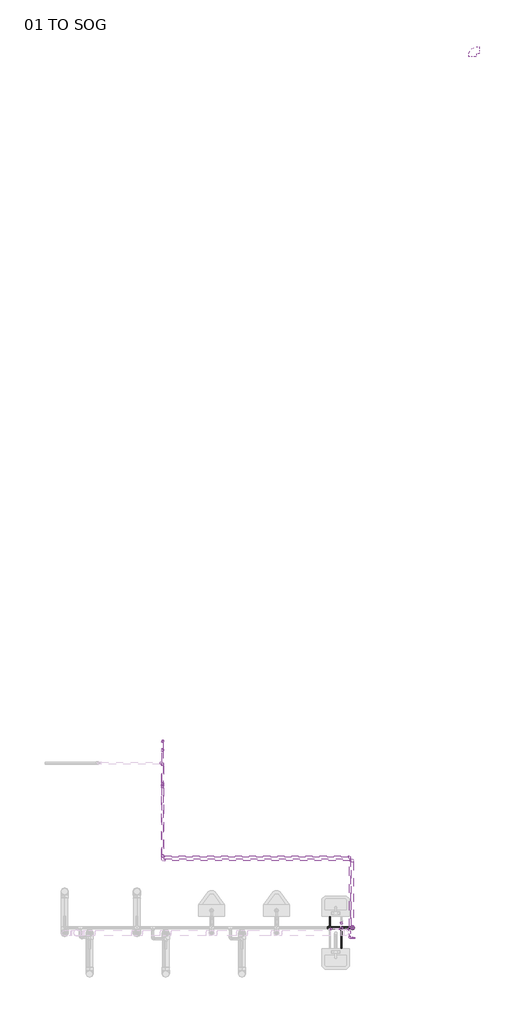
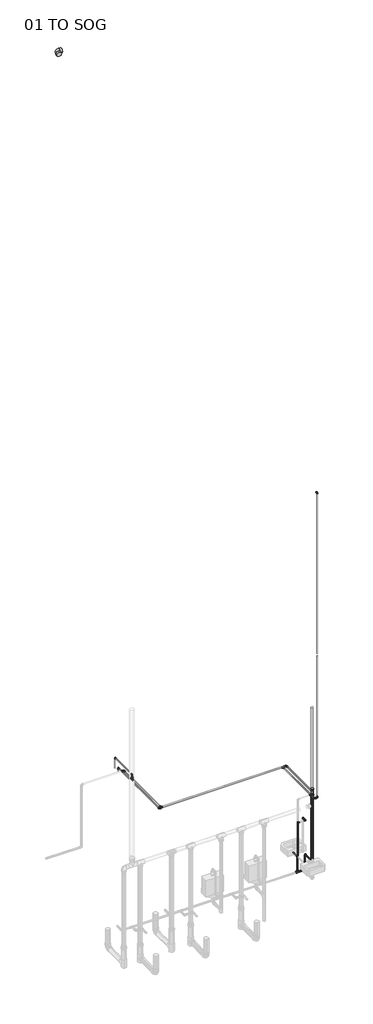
# One storey, part 4 of 4: 29 pipe fittings, 24 pipe segments.
"""IFC4 building model written with IfcOpenShell, lengths in millimetres."""

from ifc_helpers import new_model, si_unit, point, frame, frame_2d, origin, place, context, project, spatial, circle_curve, trimmed, segment, composite_curve, outline, extrude, transform, mapped, element, save
from components import elbow_pvc_sch_40_standard_49eec4e1, elbow_pvc_sch_40_standard_84c736bd, elbow_pvc_sch_40_standard_517a5a8d, reducer_pvc_sch_40_dwv_standard_62d2b996, reducer_pvc_sch_40_dwv_standard_36281592, reducer_pvc_sch_40_dwv_standard_ca3bfa07, reducer_pvc_sch_40_dwv_standard_24e42dc9, tee_pvc_sch_40_standard_2c251a49, tee_pvc_sch_40_standard_72b35c3b

model = new_model("IFC4")

# Units and contexts
model_context = context("Model", 3, world=origin())
ifc_project = project(units=[si_unit("LENGTHUNIT", "METRE", prefix="MILLI")], contexts=[model_context])

# Site, building, storey
site = spatial("IfcSite", under=ifc_project)
building = spatial("IfcBuilding", under=site)
storey = spatial("IfcBuildingStorey", under=building, Name="01 TO SOG", Elevation=0.0)

# Pipe fittings
placement = place(None, origin())
elbow_pvc_sch_40_standard_shape = elbow_pvc_sch_40_standard_49eec4e1(model_context)
element("IfcPipeFitting", 1, ObjectType="Elbow - PVC - Sch 40 : Standard", at=placement, inside=storey, context=model_context, shape_type="MappedRepresentation", body=[
    mapped(elbow_pvc_sch_40_standard_shape, transform((-12527.2862378, -4369.7953325, 1752.1219792), x_axis=(1.0, 0.0, 0.0), y_axis=(0.0, 1.0, 0.0), z_axis=(0.0, 0.0, 1.0))),
])
element("IfcPipeFitting", 2, ObjectType="Elbow - PVC - Sch 40 : Standard", at=placement, inside=storey, context=model_context, shape_type="MappedRepresentation", body=[
    mapped(elbow_pvc_sch_40_standard_shape, transform((-12527.2862378, -4252.3203325, 1752.1219792), x_axis=(0.0, 0.0, 1.0), y_axis=(0.0, -1.0, 0.0), z_axis=(1.0, 0.0, 0.0))),
])
element("IfcPipeFitting", 3, ObjectType="Elbow - PVC - Sch 40 : Standard", at=placement, inside=storey, context=model_context, shape_type="MappedRepresentation", body=[
    mapped(elbow_pvc_sch_40_standard_shape, transform((-12380.7042617, -4529.8127245, 2409.1325453), x_axis=(0.0, -1.0, 0.0), y_axis=(1.0, 0.0, 0.0), z_axis=(0.0, 0.0, 1.0))),
])
element("IfcPipeFitting", 4, ObjectType="Elbow - PVC - Sch 40 : Standard", at=placement, inside=storey, context=model_context, shape_type="MappedRepresentation", body=[
    mapped(elbow_pvc_sch_40_standard_shape, transform((-12730.4862378, -4347.5703325, 786.9219792), x_axis=(0.0, -1.0, 0.0), y_axis=(0.0, 0.0, -1.0), z_axis=(1.0, 0.0, 0.0))),
])
element("IfcPipeFitting", 5, ObjectType="Elbow - PVC - Sch 40 : Standard", at=placement, inside=storey, context=model_context, shape_type="MappedRepresentation", body=[
    mapped(elbow_pvc_sch_40_standard_shape, transform((-12526.7542617, -4347.5703325, 787.4), x_axis=(0.0, 1.0, 0.0), y_axis=(0.0, 0.0, -1.0), z_axis=(-1.0, 0.0, 0.0))),
])
element("IfcPipeFitting", 6, ObjectType="Elbow - PVC - Sch 40 : Standard", at=placement, inside=storey, context=model_context, shape_type="MappedRepresentation", body=[
    mapped(elbow_pvc_sch_40_standard_shape, transform((-12304.7024163, -4529.8127245, 2409.1325453), x_axis=(1.0, 0.0, 0.0), y_axis=(0.0, 0.0, 1.0), z_axis=(0.0, -1.0, 0.0))),
])
element("IfcPipeFitting", 7, ObjectType="Elbow - PVC - Sch 40 : Standard", at=placement, inside=storey, context=model_context, shape_type="MappedRepresentation", body=[
    mapped(elbow_pvc_sch_40_standard_shape, transform((-12304.7024163, -4529.8127245, 10983.131328), x_axis=(0.0, 0.0, 1.0), y_axis=(-0.9389057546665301, 0.3441743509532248, 0.0), z_axis=(-0.3441743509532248, -0.9389057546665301, 0.0))),
])
element("IfcPipeFitting", 8, ObjectType="Elbow - PVC - Sch 40 : Standard", at=placement, inside=storey, context=model_context, shape_type="MappedRepresentation", body=[
    mapped(elbow_pvc_sch_40_standard_shape, transform((-12380.7042617, -3093.4453325, 2409.1325453), x_axis=(0.0, 1.0, 0.0), y_axis=(-1.0, 0.0, 0.0), z_axis=(0.0, 0.0, 1.0))),
])
element("IfcPipeFitting", 9, ObjectType="Elbow - PVC - Sch 40 : Standard", at=placement, inside=storey, context=model_context, shape_type="MappedRepresentation", body=[
    mapped(elbow_pvc_sch_40_standard_shape, transform((-15676.3543453, -3093.5435738, 2409.1012919), x_axis=(0.0, -1.0, 0.0), y_axis=(1.0, 0.0, 0.0), z_axis=(0.0, 0.0, 1.0))),
])
element("IfcPipeFitting", 10, ObjectType="Elbow - PVC - Sch 40 : Standard", at=placement, inside=storey, context=model_context, shape_type="MappedRepresentation", body=[
    mapped(elbow_pvc_sch_40_standard_shape, transform((-15676.3542617, -1205.9078325, 2409.1012919), x_axis=(0.0, 0.0, 1.0), y_axis=(-4.597726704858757e-08, -0.999999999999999, 0.0), z_axis=(0.999999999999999, -4.597726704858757e-08, 0.0))),
])
element("IfcPipeFitting", 11, ObjectType="Elbow - PVC - Sch 40 : Standard", at=placement, inside=storey, context=model_context, shape_type="MappedRepresentation", body=[
    mapped(elbow_pvc_sch_40_standard_shape, transform((-15676.3542617, -1053.5078325, 2603.5), x_axis=(0.0, 0.0, 1.0), y_axis=(0.0, -1.0, 0.0), z_axis=(1.0, 0.0, 0.0))),
])
element("IfcPipeFitting", 12, ObjectType="Elbow - PVC - Sch 40 : Standard", at=placement, inside=storey, context=model_context, shape_type="MappedRepresentation", body=[
    mapped(elbow_pvc_sch_40_standard_shape, transform((-15676.3542617, -1840.9078325, 2603.5), x_axis=(0.0, -1.0, 0.0), y_axis=(0.0, 0.0, -1.0), z_axis=(1.0, 0.0, 0.0))),
])
elbow_pvc_sch_40_standard_2_shape = elbow_pvc_sch_40_standard_84c736bd(model_context)
element("IfcPipeFitting", 13, ObjectType="Elbow - PVC - Sch 40 : Standard", at=placement, inside=storey, context=model_context, shape_type="MappedRepresentation", body=[
    mapped(elbow_pvc_sch_40_standard_2_shape, transform((-10219.1403709, 11085.0064049, 13147.0862816), x_axis=(-0.9999457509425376, 0.0, -0.010416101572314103), y_axis=(0.00010848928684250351, -0.9999457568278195, -0.010414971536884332), z_axis=(-0.010415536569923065, -0.010415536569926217, 0.9998915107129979))),
])
elbow_pvc_sch_40_standard_3_shape = elbow_pvc_sch_40_standard_517a5a8d(model_context)
element("IfcPipeFitting", 14, ObjectType="Elbow - PVC - Sch 40 : Standard", at=placement, inside=storey, context=model_context, shape_type="MappedRepresentation", body=[
    mapped(elbow_pvc_sch_40_standard_3_shape, transform((-12335.1860378, -4347.5703325, 355.6), x_axis=(1.0, 0.0, 0.0), y_axis=(0.0, 0.0, 1.0), z_axis=(0.0, -1.0, 0.0))),
])
element("IfcPipeFitting", 15, ObjectType="Elbow - PVC - Sch 40 : Standard", at=placement, inside=storey, context=model_context, shape_type="MappedRepresentation", body=[
    mapped(elbow_pvc_sch_40_standard_3_shape, transform((-12335.1860378, -3153.7703325, 2475.1150248), x_axis=(0.0, 1.0, 0.0), y_axis=(-1.0, 0.0, 0.0), z_axis=(0.0, 0.0, 1.0))),
])
element("IfcPipeFitting", 16, ObjectType="Elbow - PVC - Sch 40 : Standard", at=placement, inside=storey, context=model_context, shape_type="MappedRepresentation", body=[
    mapped(elbow_pvc_sch_40_standard_3_shape, transform((-15676.3542617, -3153.7703325, 2475.1150248), x_axis=(0.0, -1.0, 0.0), y_axis=(1.0, 0.0, 0.0), z_axis=(0.0, 0.0, 1.0))),
])
element("IfcPipeFitting", 17, ObjectType="Elbow - PVC - Sch 40 : Standard", at=placement, inside=storey, context=model_context, shape_type="MappedRepresentation", body=[
    mapped(elbow_pvc_sch_40_standard_3_shape, transform((-15676.3542617, -1451.9703325, 2475.1150248), x_axis=(0.0, 1.0, 0.0), y_axis=(-1.0, 0.0, 0.0), z_axis=(0.0, 0.0, 1.0))),
])
reducer_pvc_sch_40_dwv_standard_shape = reducer_pvc_sch_40_dwv_standard_62d2b996(model_context)
element("IfcPipeFitting", 18, ObjectType="Reducer - PVC - Sch 40 - DWV : Standard", at=placement, inside=storey, context=model_context, shape_type="MappedRepresentation", body=[
    mapped(reducer_pvc_sch_40_dwv_standard_shape, transform((-12730.4862378, -4347.5703325, 395.3002), x_axis=(0.0, 0.0, 1.0), y_axis=(0.0, 1.0, 0.0), z_axis=(-1.0, 0.0, 0.0))),
])
reducer_pvc_sch_40_dwv_standard_2_shape = reducer_pvc_sch_40_dwv_standard_36281592(model_context)
element("IfcPipeFitting", 19, ObjectType="Reducer - PVC - Sch 40 - DWV : Standard", at=placement, inside=storey, context=model_context, shape_type="MappedRepresentation", body=[
    mapped(reducer_pvc_sch_40_dwv_standard_2_shape, transform((-12526.7542617, -4347.5703325, 395.3002), x_axis=(0.0, 0.0, 1.0), y_axis=(0.0, -1.0, 0.0), z_axis=(1.0, 0.0, 0.0))),
])
element("IfcPipeFitting", 20, ObjectType="Reducer - PVC - Sch 40 - DWV : Standard", at=placement, inside=storey, context=model_context, shape_type="MappedRepresentation", body=[
    mapped(reducer_pvc_sch_40_dwv_standard_2_shape, transform((-15676.3542617, -1840.9078325, 2514.8152248), x_axis=(0.0, 0.0, 1.0), y_axis=(0.0, 1.0, 0.0), z_axis=(-1.0, 0.0, 0.0))),
])
reducer_pvc_sch_40_dwv_standard_3_shape = reducer_pvc_sch_40_dwv_standard_ca3bfa07(model_context)
element("IfcPipeFitting", 21, ObjectType="Reducer - PVC - Sch 40 - DWV : Standard", at=placement, inside=storey, context=model_context, shape_type="MappedRepresentation", body=[
    mapped(reducer_pvc_sch_40_dwv_standard_3_shape, transform((-12335.1860378, -4347.5703325, 398.86255), x_axis=(0.0, 0.0, 1.0), y_axis=(1.0, 0.0, 0.0), z_axis=(0.0, 1.0, 0.0))),
])
element("IfcPipeFitting", 22, ObjectType="Reducer - PVC - Sch 40 - DWV : Standard", at=placement, inside=storey, context=model_context, shape_type="MappedRepresentation", body=[
    mapped(reducer_pvc_sch_40_dwv_standard_3_shape, transform((-12335.1860378, -4347.5703325, 2435.4148248), x_axis=(0.0, 0.0, -1.0), y_axis=(-1.0, 0.0, 0.0), z_axis=(0.0, 1.0, 0.0))),
])
reducer_pvc_sch_40_dwv_standard_4_shape = reducer_pvc_sch_40_dwv_standard_24e42dc9(model_context)
element("IfcPipeFitting", 23, ObjectType="Reducer - PVC - Sch 40 - DWV : Standard", at=placement, inside=storey, context=model_context, shape_type="MappedRepresentation", body=[
    mapped(reducer_pvc_sch_40_dwv_standard_4_shape, transform((-12335.1860378, -4347.5703325, 2514.8152248), x_axis=(0.0, 0.0, 1.0), y_axis=(1.0, 0.0, 0.0), z_axis=(0.0, 1.0, 0.0))),
])
tee_pvc_sch_40_standard_shape = tee_pvc_sch_40_standard_2c251a49(model_context)
element("IfcPipeFitting", 24, ObjectType="Tee - PVC - Sch 40 : Standard", at=placement, inside=storey, context=model_context, shape_type="MappedRepresentation", body=[
    mapped(tee_pvc_sch_40_standard_shape, transform((-12729.9542617, -4369.7953325, 1752.1219792), x_axis=(0.0, 0.0, -1.0), y_axis=(-1.0, 0.0, 0.0), z_axis=(0.0, 1.0, 0.0))),
])
element("IfcPipeFitting", 25, ObjectType="Tee - PVC - Sch 40 : Standard", at=placement, inside=storey, context=model_context, shape_type="MappedRepresentation", body=[
    mapped(tee_pvc_sch_40_standard_shape, transform((-12380.7042617, -4369.7953325, 2409.1325453), x_axis=(0.0, 1.0, 0.0), y_axis=(1.0, 0.0, 0.0), z_axis=(0.0, 0.0, -1.0))),
])
tee_pvc_sch_40_standard_2_shape = tee_pvc_sch_40_standard_72b35c3b(model_context)
element("IfcPipeFitting", 26, ObjectType="Tee - PVC - Sch 40 : Standard", at=placement, inside=storey, context=model_context, shape_type="MappedRepresentation", body=[
    mapped(tee_pvc_sch_40_standard_2_shape, transform((-12730.4862378, -4347.5703325, 355.6), x_axis=(-1.0, 0.0, 0.0), y_axis=(0.0, 0.0, -1.0), z_axis=(0.0, -1.0, 0.0))),
])
element("IfcPipeFitting", 27, ObjectType="Tee - PVC - Sch 40 : Standard", at=placement, inside=storey, context=model_context, shape_type="MappedRepresentation", body=[
    mapped(tee_pvc_sch_40_standard_2_shape, transform((-12526.7542617, -4347.5703325, 355.6), x_axis=(-1.0, 0.0, 0.0), y_axis=(0.0, 0.0, -1.0), z_axis=(0.0, -1.0, 0.0))),
])
element("IfcPipeFitting", 28, ObjectType="Tee - PVC - Sch 40 : Standard", at=placement, inside=storey, context=model_context, shape_type="MappedRepresentation", body=[
    mapped(tee_pvc_sch_40_standard_2_shape, transform((-12335.1860378, -4347.5703325, 2475.1150248), x_axis=(0.0, 0.0, -1.0), y_axis=(0.0, -1.0, 0.0), z_axis=(-1.0, 0.0, 0.0))),
])
element("IfcPipeFitting", 29, ObjectType="Tee - PVC - Sch 40 : Standard", at=placement, inside=storey, context=model_context, shape_type="MappedRepresentation", body=[
    mapped(tee_pvc_sch_40_standard_2_shape, transform((-15676.3542617, -1840.9078325, 2475.1150248), x_axis=(0.0, 1.0, 0.0), y_axis=(0.0, 0.0, -1.0), z_axis=(-1.0, 0.0, 0.0))),
])

# Pipe segments
element("IfcPipeSegment", 30, ObjectType="Standard", at=placement, inside=storey, context=model_context, shape_type="SweptSolid", body=[
    extrude(outline(composite_curve([segment(trimmed(circle_curve(frame_2d((-12729.9542617, -4369.7953325)), 10.715625), [point((-12740.6698867, -4369.7953325))], [point((-12729.9542617, -4359.0797075))], False, "CARTESIAN"), True, "CONTINUOUS"), segment(trimmed(circle_curve(frame_2d((-12729.9542617, -4369.7953325)), 10.715625), [point((-12729.9542617, -4359.0797075))], [point((-12719.2386367, -4369.7953325))], False, "CARTESIAN"), True, "CONTINUOUS"), segment(trimmed(circle_curve(frame_2d((-12729.9542617, -4369.7953325)), 10.715625), [point((-12719.2386367, -4369.7953325))], [point((-12729.9542617, -4380.5109575))], False, "CARTESIAN"), True, "CONTINUOUS"), segment(trimmed(circle_curve(frame_2d((-12729.9542617, -4369.7953325)), 10.715625), [point((-12729.9542617, -4380.5109575))], [point((-12740.6698867, -4369.7953325))], False, "CARTESIAN"), True, "CONTINUOUS")], self_intersect=False)), frame((0.0, 0.0, 821.13755), z_axis=(0.0, 0.0, 1.0), x_axis=(1.0, 0.0, 0.0)), (0.0, 0.0, 1.0), 899.2344292),
])
element("IfcPipeSegment", 31, ObjectType="Standard", at=placement, inside=storey, context=model_context, shape_type="SweptSolid", body=[
    extrude(outline(composite_curve([segment(trimmed(circle_curve(frame_2d((2409.1325453, -12380.7042617)), 10.715625), [point((2409.1325453, -12391.4198867))], [point((2398.4169203, -12380.7042617))], False, "CARTESIAN"), True, "CONTINUOUS"), segment(trimmed(circle_curve(frame_2d((2409.1325453, -12380.7042617)), 10.715625), [point((2398.4169203, -12380.7042617))], [point((2409.1325453, -12369.9886367))], False, "CARTESIAN"), True, "CONTINUOUS"), segment(trimmed(circle_curve(frame_2d((2409.1325453, -12380.7042617)), 10.715625), [point((2409.1325453, -12369.9886367))], [point((2419.8481703, -12380.7042617))], False, "CARTESIAN"), True, "CONTINUOUS"), segment(trimmed(circle_curve(frame_2d((2409.1325453, -12380.7042617)), 10.715625), [point((2419.8481703, -12380.7042617))], [point((2409.1325453, -12391.4198867))], False, "CARTESIAN"), True, "CONTINUOUS")], self_intersect=False)), frame((0.0, -4496.0751745, 0.0), z_axis=(0.0, 1.0, 0.0), x_axis=(0.0, 0.0, 1.0)), (0.0, 0.0, 1.0), 94.5298419),
])
element("IfcPipeSegment", 32, ObjectType="Standard", at=placement, inside=storey, context=model_context, shape_type="SweptSolid", body=[
    extrude(outline(composite_curve([segment(trimmed(circle_curve(frame_2d((2409.1325453, -12380.7042617)), 10.715625), [point((2409.1325453, -12369.9886367))], [point((2419.8481703, -12380.7042617))], False, "CARTESIAN"), True, "CONTINUOUS"), segment(trimmed(circle_curve(frame_2d((2409.1325453, -12380.7042617)), 10.715625), [point((2419.8481703, -12380.7042617))], [point((2409.1325453, -12391.4198867))], False, "CARTESIAN"), True, "CONTINUOUS"), segment(trimmed(circle_curve(frame_2d((2409.1325453, -12380.7042617)), 10.715625), [point((2409.1325453, -12391.4198867))], [point((2398.4169203, -12380.7042617))], False, "CARTESIAN"), True, "CONTINUOUS"), segment(trimmed(circle_curve(frame_2d((2409.1325453, -12380.7042617)), 10.715625), [point((2398.4169203, -12380.7042617))], [point((2409.1325453, -12369.9886367))], False, "CARTESIAN"), True, "CONTINUOUS")], self_intersect=False)), frame((0.0, -4338.0453325, 0.0), z_axis=(0.0, 1.0, 0.0), x_axis=(0.0, 0.0, 1.0)), (0.0, 0.0, 1.0), 1210.86245),
])
element("IfcPipeSegment", 33, ObjectType="Standard", at=placement, inside=storey, context=model_context, shape_type="SweptSolid", body=[
    extrude(outline(composite_curve([segment(trimmed(circle_curve(frame_2d((-4529.8127245, 2409.1325453)), 10.715625), [point((-4540.5283495, 2409.1325453))], [point((-4529.8127245, 2419.8481703))], False, "CARTESIAN"), True, "CONTINUOUS"), segment(trimmed(circle_curve(frame_2d((-4529.8127245, 2409.1325453)), 10.715625), [point((-4529.8127245, 2419.8481703))], [point((-4519.0970995, 2409.1325453))], False, "CARTESIAN"), True, "CONTINUOUS"), segment(trimmed(circle_curve(frame_2d((-4529.8127245, 2409.1325453)), 10.715625), [point((-4519.0970995, 2409.1325453))], [point((-4529.8127245, 2398.4169203))], False, "CARTESIAN"), True, "CONTINUOUS"), segment(trimmed(circle_curve(frame_2d((-4529.8127245, 2409.1325453)), 10.715625), [point((-4529.8127245, 2398.4169203))], [point((-4540.5283495, 2409.1325453))], False, "CARTESIAN"), True, "CONTINUOUS")], self_intersect=False)), frame((-12346.9667117, 0.0, 0.0), z_axis=(1.0, 0.0, 0.0), x_axis=(0.0, 1.0, 0.0)), (0.0, 0.0, 1.0), 8.5267454),
])
element("IfcPipeSegment", 34, ObjectType="Standard", at=placement, inside=storey, context=model_context, shape_type="SweptSolid", body=[
    extrude(outline(composite_curve([segment(trimmed(circle_curve(frame_2d((-12304.7024163, -4529.8127245)), 10.715625), [point((-12315.4180413, -4529.8127245))], [point((-12304.7024163, -4519.0970995))], False, "CARTESIAN"), True, "CONTINUOUS"), segment(trimmed(circle_curve(frame_2d((-12304.7024163, -4529.8127245)), 10.715625), [point((-12304.7024163, -4519.0970995))], [point((-12293.9867913, -4529.8127245))], False, "CARTESIAN"), True, "CONTINUOUS"), segment(trimmed(circle_curve(frame_2d((-12304.7024163, -4529.8127245)), 10.715625), [point((-12293.9867913, -4529.8127245))], [point((-12304.7024163, -4540.5283495))], False, "CARTESIAN"), True, "CONTINUOUS"), segment(trimmed(circle_curve(frame_2d((-12304.7024163, -4529.8127245)), 10.715625), [point((-12304.7024163, -4540.5283495))], [point((-12315.4180413, -4529.8127245))], False, "CARTESIAN"), True, "CONTINUOUS")], self_intersect=False)), frame((0.0, 0.0, 6446.2352132), z_axis=(0.0, 0.0, 1.0), x_axis=(1.0, 0.0, 0.0)), (0.0, 0.0, 1.0), 4503.1585647),
])
element("IfcPipeSegment", 35, ObjectType="Standard", at=placement, inside=storey, context=model_context, shape_type="SweptSolid", body=[
    extrude(outline(composite_curve([segment(trimmed(circle_curve(frame_2d((787.4, -12526.7542617)), 10.715625), [point((787.4, -12516.0386367))], [point((798.115625, -12526.7542617))], False, "CARTESIAN"), True, "CONTINUOUS"), segment(trimmed(circle_curve(frame_2d((787.4, -12526.7542617)), 10.715625), [point((798.115625, -12526.7542617))], [point((787.4, -12537.4698867))], False, "CARTESIAN"), True, "CONTINUOUS"), segment(trimmed(circle_curve(frame_2d((787.4, -12526.7542617)), 10.715625), [point((787.4, -12537.4698867))], [point((776.684375, -12526.7542617))], False, "CARTESIAN"), True, "CONTINUOUS"), segment(trimmed(circle_curve(frame_2d((787.4, -12526.7542617)), 10.715625), [point((776.684375, -12526.7542617))], [point((787.4, -12516.0386367))], False, "CARTESIAN"), True, "CONTINUOUS")], self_intersect=False)), frame((0.0, -4719.0453325, 0.0), z_axis=(0.0, 1.0, 0.0), x_axis=(0.0, 0.0, 1.0)), (0.0, 0.0, 1.0), 337.73745),
])
element("IfcPipeSegment", 36, ObjectType="Standard", at=placement, inside=storey, context=model_context, shape_type="SweptSolid", body=[
    extrude(outline(composite_curve([segment(trimmed(circle_curve(frame_2d((786.9219792, -12730.4862378)), 10.715625), [point((786.9219792, -12741.2018628))], [point((776.2063542, -12730.4862378))], False, "CARTESIAN"), True, "CONTINUOUS"), segment(trimmed(circle_curve(frame_2d((786.9219792, -12730.4862378)), 10.715625), [point((776.2063542, -12730.4862378))], [point((786.9219792, -12719.7706128))], False, "CARTESIAN"), True, "CONTINUOUS"), segment(trimmed(circle_curve(frame_2d((786.9219792, -12730.4862378)), 10.715625), [point((786.9219792, -12719.7706128))], [point((797.6376042, -12730.4862378))], False, "CARTESIAN"), True, "CONTINUOUS"), segment(trimmed(circle_curve(frame_2d((786.9219792, -12730.4862378)), 10.715625), [point((797.6376042, -12730.4862378))], [point((786.9219792, -12741.2018628))], False, "CARTESIAN"), True, "CONTINUOUS")], self_intersect=False)), frame((0.0, -4313.8327825, 0.0), z_axis=(0.0, 1.0, 0.0), x_axis=(0.0, 0.0, 1.0)), (0.0, 0.0, 1.0), 169.46245),
])
element("IfcPipeSegment", 37, ObjectType="Standard", at=placement, inside=storey, context=model_context, shape_type="SweptSolid", body=[
    extrude(outline(composite_curve([segment(trimmed(circle_curve(frame_2d((-12730.4862378, -4347.5703325)), 10.715625), [point((-12719.7706128, -4347.5703325))], [point((-12730.4862378, -4358.2859575))], False, "CARTESIAN"), True, "CONTINUOUS"), segment(trimmed(circle_curve(frame_2d((-12730.4862378, -4347.5703325)), 10.715625), [point((-12730.4862378, -4358.2859575))], [point((-12741.2018628, -4347.5703325))], False, "CARTESIAN"), True, "CONTINUOUS"), segment(trimmed(circle_curve(frame_2d((-12730.4862378, -4347.5703325)), 10.715625), [point((-12741.2018628, -4347.5703325))], [point((-12730.4862378, -4336.8547075))], False, "CARTESIAN"), True, "CONTINUOUS"), segment(trimmed(circle_curve(frame_2d((-12730.4862378, -4347.5703325)), 10.715625), [point((-12730.4862378, -4336.8547075))], [point((-12719.7706128, -4347.5703325))], False, "CARTESIAN"), True, "CONTINUOUS")], self_intersect=False)), frame((0.0, 0.0, 421.5772937), z_axis=(0.0, 0.0, 1.0), x_axis=(1.0, 0.0, 0.0)), (0.0, 0.0, 1.0), 331.6071354),
])
element("IfcPipeSegment", 38, ObjectType="Standard", at=placement, inside=storey, context=model_context, shape_type="SweptSolid", body=[
    extrude(outline(composite_curve([segment(trimmed(circle_curve(frame_2d((-12526.7542617, -4347.5703325)), 10.715625), [point((-12516.0386367, -4347.5703325))], [point((-12526.7542617, -4358.2859575))], False, "CARTESIAN"), True, "CONTINUOUS"), segment(trimmed(circle_curve(frame_2d((-12526.7542617, -4347.5703325)), 10.715625), [point((-12526.7542617, -4358.2859575))], [point((-12537.4698867, -4347.5703325))], False, "CARTESIAN"), True, "CONTINUOUS"), segment(trimmed(circle_curve(frame_2d((-12526.7542617, -4347.5703325)), 10.715625), [point((-12537.4698867, -4347.5703325))], [point((-12526.7542617, -4336.8547075))], False, "CARTESIAN"), True, "CONTINUOUS"), segment(trimmed(circle_curve(frame_2d((-12526.7542617, -4347.5703325)), 10.715625), [point((-12526.7542617, -4336.8547075))], [point((-12516.0386367, -4347.5703325))], False, "CARTESIAN"), True, "CONTINUOUS")], self_intersect=False)), frame((0.0, 0.0, 421.5772937), z_axis=(0.0, 0.0, 1.0), x_axis=(1.0, 0.0, 0.0)), (0.0, 0.0, 1.0), 332.0851563),
])
element("IfcPipeSegment", 39, ObjectType="Standard", at=placement, inside=storey, context=model_context, shape_type="SweptSolid", body=[
    extrude(outline(composite_curve([segment(trimmed(circle_curve(frame_2d((-4347.5703325, 355.6)), 16.66875), [point((-4364.2390825, 355.6))], [point((-4347.5703325, 372.26875))], False, "CARTESIAN"), True, "CONTINUOUS"), segment(trimmed(circle_curve(frame_2d((-4347.5703325, 355.6)), 16.66875), [point((-4347.5703325, 372.26875))], [point((-4330.9015825, 355.6))], False, "CARTESIAN"), True, "CONTINUOUS"), segment(trimmed(circle_curve(frame_2d((-4347.5703325, 355.6)), 16.66875), [point((-4330.9015825, 355.6))], [point((-4347.5703325, 338.93125))], False, "CARTESIAN"), True, "CONTINUOUS"), segment(trimmed(circle_curve(frame_2d((-4347.5703325, 355.6)), 16.66875), [point((-4347.5703325, 338.93125))], [point((-4364.2390825, 355.6))], False, "CARTESIAN"), True, "CONTINUOUS")], self_intersect=False)), frame((-12487.0540617, 0.0, 0.0), z_axis=(1.0, 0.0, 0.0), x_axis=(0.0, 1.0, 0.0)), (0.0, 0.0, 1.0), 108.6054738),
])
element("IfcPipeSegment", 40, ObjectType="Standard", at=placement, inside=storey, context=model_context, shape_type="SweptSolid", body=[
    extrude(outline(composite_curve([segment(trimmed(circle_curve(frame_2d((0.0, 16.66875)), 16.66875), [point((-16.66875, 16.66875))], [point((0.0, 33.3375))], False, "CARTESIAN"), True, "CONTINUOUS"), segment(trimmed(circle_curve(frame_2d((0.0, 16.66875)), 16.66875), [point((0.0, 33.3375))], [point((16.66875, 16.66875))], False, "CARTESIAN"), True, "CONTINUOUS"), segment(trimmed(circle_curve(frame_2d((0.0, 16.66875)), 16.66875), [point((16.66875, 16.66875))], [point((0.0, 0.0))], False, "CARTESIAN"), True, "CONTINUOUS"), segment(trimmed(circle_curve(frame_2d((0.0, 16.66875)), 16.66875), [point((0.0, 0.0))], [point((-16.66875, 16.66875))], False, "CARTESIAN"), True, "CONTINUOUS")], self_intersect=False)), frame((-12690.7860378, -4347.5703325, 338.93125), z_axis=(1.0, 2.0250467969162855e-12, 0.0), x_axis=(-2.0250467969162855e-12, 1.0, 0.0)), (0.0, 0.0, 1.0), 124.3315762),
])
element("IfcPipeSegment", 41, ObjectType="Standard", at=placement, inside=storey, context=model_context, shape_type="SweptSolid", body=[
    extrude(outline(composite_curve([segment(trimmed(circle_curve(frame_2d((2475.1150248, -12335.1860378)), 16.66875), [point((2475.1150248, -12318.5172878))], [point((2491.7837748, -12335.1860378))], False, "CARTESIAN"), True, "CONTINUOUS"), segment(trimmed(circle_curve(frame_2d((2475.1150248, -12335.1860378)), 16.66875), [point((2491.7837748, -12335.1860378))], [point((2475.1150248, -12351.8547878))], False, "CARTESIAN"), True, "CONTINUOUS"), segment(trimmed(circle_curve(frame_2d((2475.1150248, -12335.1860378)), 16.66875), [point((2475.1150248, -12351.8547878))], [point((2458.4462748, -12335.1860378))], False, "CARTESIAN"), True, "CONTINUOUS"), segment(trimmed(circle_curve(frame_2d((2475.1150248, -12335.1860378)), 16.66875), [point((2458.4462748, -12335.1860378))], [point((2475.1150248, -12318.5172878))], False, "CARTESIAN"), True, "CONTINUOUS")], self_intersect=False)), frame((0.0, -4307.8701325, 0.0), z_axis=(0.0, 1.0, 0.0), x_axis=(0.0, 0.0, 1.0)), (0.0, 0.0, 1.0), 1110.83725),
])
element("IfcPipeSegment", 42, ObjectType="Standard", at=placement, inside=storey, context=model_context, shape_type="SweptSolid", body=[
    extrude(outline(composite_curve([segment(trimmed(circle_curve(frame_2d((-12335.1860378, -4347.5703325)), 30.1625), [point((-12365.3485378, -4347.5703325))], [point((-12335.1860378, -4317.4078325))], False, "CARTESIAN"), True, "CONTINUOUS"), segment(trimmed(circle_curve(frame_2d((-12335.1860378, -4347.5703325)), 30.1625), [point((-12335.1860378, -4317.4078325))], [point((-12305.0235378, -4347.5703325))], False, "CARTESIAN"), True, "CONTINUOUS"), segment(trimmed(circle_curve(frame_2d((-12335.1860378, -4347.5703325)), 30.1625), [point((-12305.0235378, -4347.5703325))], [point((-12335.1860378, -4377.7328325))], False, "CARTESIAN"), True, "CONTINUOUS"), segment(trimmed(circle_curve(frame_2d((-12335.1860378, -4347.5703325)), 30.1625), [point((-12335.1860378, -4377.7328325))], [point((-12365.3485378, -4347.5703325))], False, "CARTESIAN"), True, "CONTINUOUS")], self_intersect=False)), frame((0.0, 0.0, 2566.8733186), z_axis=(0.0, 0.0, 1.0), x_axis=(1.0, 0.0, 0.0)), (0.0, 0.0, 1.0), 2268.9683877),
])
element("IfcPipeSegment", 43, ObjectType="Standard", at=placement, inside=storey, context=model_context, shape_type="SweptSolid", body=[
    extrude(outline(composite_curve([segment(trimmed(circle_curve(frame_2d((-12304.7024163, -4529.8127245)), 10.715625), [point((-12315.4180413, -4529.8127245))], [point((-12304.7024163, -4519.0970995))], False, "CARTESIAN"), True, "CONTINUOUS"), segment(trimmed(circle_curve(frame_2d((-12304.7024163, -4529.8127245)), 10.715625), [point((-12304.7024163, -4519.0970995))], [point((-12293.9867913, -4529.8127245))], False, "CARTESIAN"), True, "CONTINUOUS"), segment(trimmed(circle_curve(frame_2d((-12304.7024163, -4529.8127245)), 10.715625), [point((-12293.9867913, -4529.8127245))], [point((-12304.7024163, -4540.5283495))], False, "CARTESIAN"), True, "CONTINUOUS"), segment(trimmed(circle_curve(frame_2d((-12304.7024163, -4529.8127245)), 10.715625), [point((-12304.7024163, -4540.5283495))], [point((-12315.4180413, -4529.8127245))], False, "CARTESIAN"), True, "CONTINUOUS")], self_intersect=False)), frame((0.0, 0.0, 2442.8700953), z_axis=(0.0, 0.0, 1.0), x_axis=(1.0, 0.0, 0.0)), (0.0, 0.0, 1.0), 3939.8651179),
])
element("IfcPipeSegment", 44, ObjectType="Standard", at=placement, inside=storey, context=model_context, shape_type="SweptSolid", body=[
    extrude(outline(composite_curve([segment(trimmed(circle_curve(frame_2d((-12335.1860378, -4347.5703325)), 30.1625), [point((-12365.3485378, -4347.5703325))], [point((-12335.1860378, -4317.4078325))], False, "CARTESIAN"), True, "CONTINUOUS"), segment(trimmed(circle_curve(frame_2d((-12335.1860378, -4347.5703325)), 30.1625), [point((-12335.1860378, -4317.4078325))], [point((-12305.0235378, -4347.5703325))], False, "CARTESIAN"), True, "CONTINUOUS"), segment(trimmed(circle_curve(frame_2d((-12335.1860378, -4347.5703325)), 30.1625), [point((-12305.0235378, -4347.5703325))], [point((-12335.1860378, -4377.7328325))], False, "CARTESIAN"), True, "CONTINUOUS"), segment(trimmed(circle_curve(frame_2d((-12335.1860378, -4347.5703325)), 30.1625), [point((-12335.1860378, -4377.7328325))], [point((-12365.3485378, -4347.5703325))], False, "CARTESIAN"), True, "CONTINUOUS")], self_intersect=False)), frame((0.0, 0.0, 450.9206438), z_axis=(0.0, 0.0, 1.0), x_axis=(1.0, 0.0, 0.0)), (0.0, 0.0, 1.0), 1932.4360873),
])
element("IfcPipeSegment", 45, ObjectType="Standard", at=placement, inside=storey, context=model_context, shape_type="SweptSolid", body=[
    extrude(outline(composite_curve([segment(trimmed(circle_curve(frame_2d((-3153.7703325, 2475.1150248)), 16.66875), [point((-3137.1015825, 2475.1150248))], [point((-3153.7703325, 2458.4462748))], False, "CARTESIAN"), True, "CONTINUOUS"), segment(trimmed(circle_curve(frame_2d((-3153.7703325, 2475.1150248)), 16.66875), [point((-3153.7703325, 2458.4462748))], [point((-3170.4390825, 2475.1150248))], False, "CARTESIAN"), True, "CONTINUOUS"), segment(trimmed(circle_curve(frame_2d((-3153.7703325, 2475.1150248)), 16.66875), [point((-3170.4390825, 2475.1150248))], [point((-3153.7703325, 2491.7837748))], False, "CARTESIAN"), True, "CONTINUOUS"), segment(trimmed(circle_curve(frame_2d((-3153.7703325, 2475.1150248)), 16.66875), [point((-3153.7703325, 2491.7837748))], [point((-3137.1015825, 2475.1150248))], False, "CARTESIAN"), True, "CONTINUOUS")], self_intersect=False)), frame((-15633.0917117, 0.0, 0.0), z_axis=(1.0, 0.0, 0.0), x_axis=(0.0, 1.0, 0.0)), (0.0, 0.0, 1.0), 3254.6431238),
])
element("IfcPipeSegment", 46, ObjectType="Standard", at=placement, inside=storey, context=model_context, shape_type="SweptSolid", body=[
    extrude(outline(composite_curve([segment(trimmed(circle_curve(frame_2d((2475.1150248, -15676.3542617)), 16.66875), [point((2475.1150248, -15659.6855117))], [point((2491.7837748, -15676.3542617))], False, "CARTESIAN"), True, "CONTINUOUS"), segment(trimmed(circle_curve(frame_2d((2475.1150248, -15676.3542617)), 16.66875), [point((2491.7837748, -15676.3542617))], [point((2475.1150248, -15693.0230117))], False, "CARTESIAN"), True, "CONTINUOUS"), segment(trimmed(circle_curve(frame_2d((2475.1150248, -15676.3542617)), 16.66875), [point((2475.1150248, -15693.0230117))], [point((2458.4462748, -15676.3542617))], False, "CARTESIAN"), True, "CONTINUOUS"), segment(trimmed(circle_curve(frame_2d((2475.1150248, -15676.3542617)), 16.66875), [point((2458.4462748, -15676.3542617))], [point((2475.1150248, -15659.6855117))], False, "CARTESIAN"), True, "CONTINUOUS")], self_intersect=False)), frame((0.0, -1801.2076325, 0.0), z_axis=(0.0, 1.0, 0.0), x_axis=(0.0, 0.0, 1.0)), (0.0, 0.0, 1.0), 305.97475),
])
element("IfcPipeSegment", 47, ObjectType="Standard", at=placement, inside=storey, context=model_context, shape_type="SweptSolid", body=[
    extrude(outline(composite_curve([segment(trimmed(circle_curve(frame_2d((0.0, -10.715625)), 10.715625), [point((-10.715625, -10.715625))], [point((0.0, 0.0))], False, "CARTESIAN"), True, "CONTINUOUS"), segment(trimmed(circle_curve(frame_2d((0.0, -10.715625)), 10.715625), [point((0.0, 0.0))], [point((10.715625, -10.715625))], False, "CARTESIAN"), True, "CONTINUOUS"), segment(trimmed(circle_curve(frame_2d((0.0, -10.715625)), 10.715625), [point((10.715625, -10.715625))], [point((0.0, -21.43125))], False, "CARTESIAN"), True, "CONTINUOUS"), segment(trimmed(circle_curve(frame_2d((0.0, -10.715625)), 10.715625), [point((0.0, -21.43125))], [point((-10.715625, -10.715625))], False, "CARTESIAN"), True, "CONTINUOUS")], self_intersect=False)), frame((-15642.6167953, -3093.5435738, 2398.3864482), z_axis=(0.9999999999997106, 7.608110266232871e-07, 0.0), x_axis=(7.608110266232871e-07, -0.9999999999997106, 0.0)), (0.0, 0.0, 1.0), 3228.1749837),
])
element("IfcPipeSegment", 48, ObjectType="Standard", at=placement, inside=storey, context=model_context, shape_type="SweptSolid", body=[
    extrude(outline(composite_curve([segment(trimmed(circle_curve(frame_2d((-15676.3542617, -1205.9078325)), 10.715625), [point((-15687.0698867, -1205.9078325))], [point((-15676.3542617, -1195.1922075))], False, "CARTESIAN"), True, "CONTINUOUS"), segment(trimmed(circle_curve(frame_2d((-15676.3542617, -1205.9078325)), 10.715625), [point((-15676.3542617, -1195.1922075))], [point((-15665.6386367, -1205.9078325))], False, "CARTESIAN"), True, "CONTINUOUS"), segment(trimmed(circle_curve(frame_2d((-15676.3542617, -1205.9078325)), 10.715625), [point((-15665.6386367, -1205.9078325))], [point((-15676.3542617, -1216.6234575))], False, "CARTESIAN"), True, "CONTINUOUS"), segment(trimmed(circle_curve(frame_2d((-15676.3542617, -1205.9078325)), 10.715625), [point((-15676.3542617, -1216.6234575))], [point((-15687.0698867, -1205.9078325))], False, "CARTESIAN"), True, "CONTINUOUS")], self_intersect=False)), frame((0.0, 0.0, 2311.4), z_axis=(0.0, 0.0, 1.0), x_axis=(1.0, 0.0, 0.0)), (0.0, 0.0, 1.0), 63.9637419),
])
element("IfcPipeSegment", 49, ObjectType="Standard", at=placement, inside=storey, context=model_context, shape_type="SweptSolid", body=[
    extrude(outline(composite_curve([segment(trimmed(circle_curve(frame_2d((0.0, 10.715625)), 10.715625), [point((0.0, 21.43125))], [point((10.715625, 10.715625))], False, "CARTESIAN"), True, "CONTINUOUS"), segment(trimmed(circle_curve(frame_2d((0.0, 10.715625)), 10.715625), [point((10.715625, 10.715625))], [point((0.0, 0.0))], False, "CARTESIAN"), True, "CONTINUOUS"), segment(trimmed(circle_curve(frame_2d((0.0, 10.715625)), 10.715625), [point((0.0, 0.0))], [point((-10.715625, 10.715625))], False, "CARTESIAN"), True, "CONTINUOUS"), segment(trimmed(circle_curve(frame_2d((0.0, 10.715625)), 10.715625), [point((-10.715625, 10.715625))], [point((0.0, 21.43125))], False, "CARTESIAN"), True, "CONTINUOUS")], self_intersect=False)), frame((-15687.0699703, -3059.8060233, 2409.1012919), z_axis=(4.597725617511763e-08, 0.999999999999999, 0.0), x_axis=(0.0, 0.0, 1.0)), (0.0, 0.0, 1.0), 1820.1606412),
])
element("IfcPipeSegment", 50, ObjectType="Standard", at=placement, inside=storey, context=model_context, shape_type="SweptSolid", body=[
    extrude(outline(composite_curve([segment(trimmed(circle_curve(frame_2d((-15676.3542617, -1053.5078325)), 10.715625), [point((-15687.0698867, -1053.5078325))], [point((-15676.3542617, -1042.7922075))], False, "CARTESIAN"), True, "CONTINUOUS"), segment(trimmed(circle_curve(frame_2d((-15676.3542617, -1053.5078325)), 10.715625), [point((-15676.3542617, -1042.7922075))], [point((-15665.6386367, -1053.5078325))], False, "CARTESIAN"), True, "CONTINUOUS"), segment(trimmed(circle_curve(frame_2d((-15676.3542617, -1053.5078325)), 10.715625), [point((-15665.6386367, -1053.5078325))], [point((-15676.3542617, -1064.2234575))], False, "CARTESIAN"), True, "CONTINUOUS"), segment(trimmed(circle_curve(frame_2d((-15676.3542617, -1053.5078325)), 10.715625), [point((-15676.3542617, -1064.2234575))], [point((-15687.0698867, -1053.5078325))], False, "CARTESIAN"), True, "CONTINUOUS")], self_intersect=False)), frame((0.0, 0.0, 2311.4), z_axis=(0.0, 0.0, 1.0), x_axis=(1.0, 0.0, 0.0)), (0.0, 0.0, 1.0), 258.36245),
])
element("IfcPipeSegment", 51, ObjectType="Standard", at=placement, inside=storey, context=model_context, shape_type="SweptSolid", body=[
    extrude(outline(composite_curve([segment(trimmed(circle_curve(frame_2d((2603.5, -15676.3542617)), 10.715625), [point((2603.5, -15687.0698867))], [point((2592.784375, -15676.3542617))], False, "CARTESIAN"), True, "CONTINUOUS"), segment(trimmed(circle_curve(frame_2d((2603.5, -15676.3542617)), 10.715625), [point((2592.784375, -15676.3542617))], [point((2603.5, -15665.6386367))], False, "CARTESIAN"), True, "CONTINUOUS"), segment(trimmed(circle_curve(frame_2d((2603.5, -15676.3542617)), 10.715625), [point((2603.5, -15665.6386367))], [point((2614.215625, -15676.3542617))], False, "CARTESIAN"), True, "CONTINUOUS"), segment(trimmed(circle_curve(frame_2d((2603.5, -15676.3542617)), 10.715625), [point((2614.215625, -15676.3542617))], [point((2603.5, -15687.0698867))], False, "CARTESIAN"), True, "CONTINUOUS")], self_intersect=False)), frame((0.0, -1807.1702825, 0.0), z_axis=(0.0, 1.0, 0.0), x_axis=(0.0, 0.0, 1.0)), (0.0, 0.0, 1.0), 719.9249),
])
element("IfcPipeSegment", 52, ObjectType="Standard", at=placement, inside=storey, context=model_context, shape_type="SweptSolid", body=[
    extrude(outline(composite_curve([segment(trimmed(circle_curve(frame_2d((-15676.3542617, -1840.9078325)), 10.715625), [point((-15665.6386367, -1840.9078325))], [point((-15676.3542617, -1851.6234575))], False, "CARTESIAN"), True, "CONTINUOUS"), segment(trimmed(circle_curve(frame_2d((-15676.3542617, -1840.9078325)), 10.715625), [point((-15676.3542617, -1851.6234575))], [point((-15687.0698867, -1840.9078325))], False, "CARTESIAN"), True, "CONTINUOUS"), segment(trimmed(circle_curve(frame_2d((-15676.3542617, -1840.9078325)), 10.715625), [point((-15687.0698867, -1840.9078325))], [point((-15676.3542617, -1830.1922075))], False, "CARTESIAN"), True, "CONTINUOUS"), segment(trimmed(circle_curve(frame_2d((-15676.3542617, -1840.9078325)), 10.715625), [point((-15676.3542617, -1830.1922075))], [point((-15665.6386367, -1840.9078325))], False, "CARTESIAN"), True, "CONTINUOUS")], self_intersect=False)), frame((0.0, 0.0, 2541.0923186), z_axis=(0.0, 0.0, 1.0), x_axis=(1.0, 0.0, 0.0)), (0.0, 0.0, 1.0), 28.6701314),
])
element("IfcPipeSegment", 53, ObjectType="Standard", at=placement, inside=storey, context=model_context, shape_type="SweptSolid", body=[
    extrude(outline(composite_curve([segment(trimmed(circle_curve(frame_2d((2475.1150248, -15676.3542617)), 16.66875), [point((2475.1150248, -15659.6855117))], [point((2491.7837748, -15676.3542617))], False, "CARTESIAN"), True, "CONTINUOUS"), segment(trimmed(circle_curve(frame_2d((2475.1150248, -15676.3542617)), 16.66875), [point((2491.7837748, -15676.3542617))], [point((2475.1150248, -15693.0230117))], False, "CARTESIAN"), True, "CONTINUOUS"), segment(trimmed(circle_curve(frame_2d((2475.1150248, -15676.3542617)), 16.66875), [point((2475.1150248, -15693.0230117))], [point((2458.4462748, -15676.3542617))], False, "CARTESIAN"), True, "CONTINUOUS"), segment(trimmed(circle_curve(frame_2d((2475.1150248, -15676.3542617)), 16.66875), [point((2458.4462748, -15676.3542617))], [point((2475.1150248, -15659.6855117))], False, "CARTESIAN"), True, "CONTINUOUS")], self_intersect=False)), frame((0.0, -3110.5077825, 0.0), z_axis=(0.0, 1.0, 0.0), x_axis=(0.0, 0.0, 1.0)), (0.0, 0.0, 1.0), 1229.89975),
])

save(model, "model.ifc")
